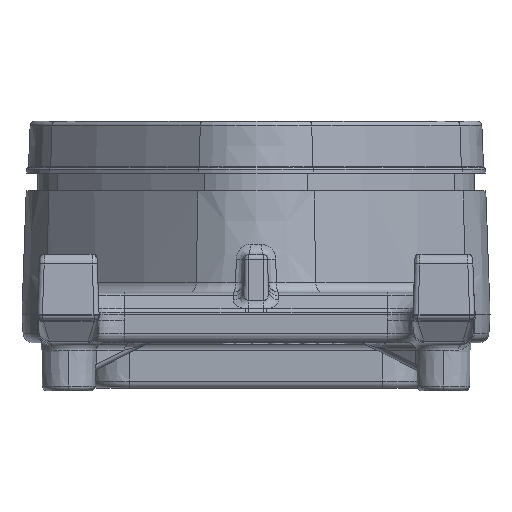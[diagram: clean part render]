
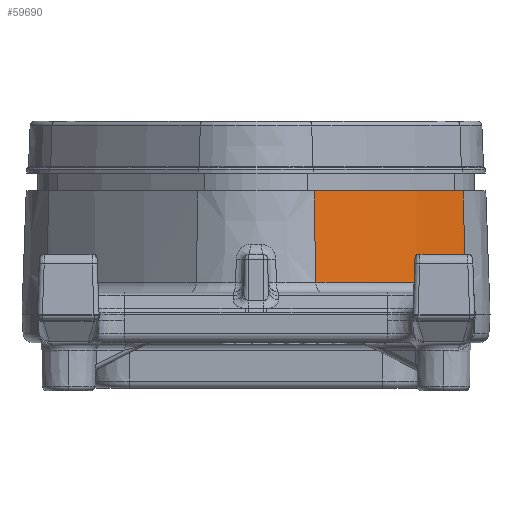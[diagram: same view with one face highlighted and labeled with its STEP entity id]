
A CAD part, left-side view. The second image highlights one B-rep face of the part: STEP entity #59690.
In plain terms, the highlighted conical face has half-angle 2 degrees and reference radius 150 mm.
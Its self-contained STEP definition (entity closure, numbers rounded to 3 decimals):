
#26316=AXIS2_PLACEMENT_3D('Circle Axis2P3D',#26314,#26315,$) ;
#28661=AXIS2_PLACEMENT_3D('Circle Axis2P3D',#28659,#28660,$) ;
#41360=AXIS2_PLACEMENT_3D('Cone Axis2P3D',#41357,#41358,#41359) ;
#26197=CARTESIAN_POINT('Vertex',(-46.904,-40.911,4.)) ;
#26200=CARTESIAN_POINT('Line Origine',(-47.186,-41.256,-8.75)) ;
#26204=CARTESIAN_POINT('Vertex',(-47.309,-41.405,-14.268)) ;
#26311=CARTESIAN_POINT('Vertex',(-74.322,-11.458,4.)) ;
#26314=CARTESIAN_POINT('Axis2P3D Location',(48.084,75.,4.)) ;
#27942=CARTESIAN_POINT('Vertex',(-74.837,-11.822,-14.07)) ;
#28605=CARTESIAN_POINT('Control Point',(-47.309,-41.405,-14.268)) ;
#28606=CARTESIAN_POINT('Control Point',(-47.373,-41.351,-14.248)) ;
#28607=CARTESIAN_POINT('Control Point',(-47.437,-41.297,-14.228)) ;
#28608=CARTESIAN_POINT('Control Point',(-47.502,-41.243,-14.21)) ;
#28609=CARTESIAN_POINT('Control Point',(-47.754,-41.033,-14.146)) ;
#28610=CARTESIAN_POINT('Control Point',(-48.008,-40.821,-14.102)) ;
#28611=CARTESIAN_POINT('Control Point',(-48.197,-40.662,-14.081)) ;
#28612=CARTESIAN_POINT('Control Point',(-48.387,-40.504,-14.07)) ;
#28613=CARTESIAN_POINT('Control Point',(-48.576,-40.345,-14.07)) ;
#28614=CARTESIAN_POINT('Vertex',(-48.576,-40.345,-14.07)) ;
#28659=CARTESIAN_POINT('Axis2P3D Location',(48.084,75.,-14.07)) ;
#41357=CARTESIAN_POINT('Axis2P3D Location',(48.084,75.,0.)) ;
#59678=CARTESIAN_POINT('Line Origine',(-74.686,-11.715,-8.75)) ;
#26201=DIRECTION('Vector Direction',(-0.022,-0.027,-0.999)) ;
#26315=DIRECTION('Axis2P3D Direction',(0.,0.,1.)) ;
#28660=DIRECTION('Axis2P3D Direction',(0.,0.,1.)) ;
#41358=DIRECTION('Axis2P3D Direction',(-0.,-0.,-1.)) ;
#41359=DIRECTION('Axis2P3D XDirection',(-0.817,-0.577,0.)) ;
#59679=DIRECTION('Vector Direction',(-0.029,-0.02,-0.999)) ;
#26202=VECTOR('Line Direction',#26201,1.) ;
#59680=VECTOR('Line Direction',#59679,1.) ;
#59684=ORIENTED_EDGE('',*,*,#28663,.F.) ;
#59685=ORIENTED_EDGE('',*,*,#28616,.F.) ;
#59686=ORIENTED_EDGE('',*,*,#26206,.T.) ;
#59687=ORIENTED_EDGE('',*,*,#26318,.F.) ;
#59688=ORIENTED_EDGE('',*,*,#59682,.F.) ;
#59690=ADVANCED_FACE('Hold frame . Inve.Wand MET - INVEOR BG-A.1\\Halterahmen',(#59689),#41361,.T.) ;
#28604=B_SPLINE_CURVE_WITH_KNOTS('',5,(#28605,#28606,#28607,#28608,#28609,#28610,#28611,#28612,#28613),.UNSPECIFIED.,.F.,.U.,(6,3,6),(11.384,11.932,13.517),.UNSPECIFIED.) ;
#26317=CIRCLE('generated circle',#26316,149.86) ;
#28662=CIRCLE('generated circle',#28661,150.491) ;
#41361=CONICAL_SURFACE('Cone',#41360,150.,0.035) ;
#26206=EDGE_CURVE('',#26205,#26198,#26203,.F.) ;
#26318=EDGE_CURVE('',#26312,#26198,#26317,.T.) ;
#28616=EDGE_CURVE('',#26205,#28615,#28604,.T.) ;
#28663=EDGE_CURVE('',#28615,#27943,#28662,.F.) ;
#59682=EDGE_CURVE('',#27943,#26312,#59681,.F.) ;
#59683=EDGE_LOOP('',(#59684,#59685,#59686,#59687,#59688)) ;
#59689=FACE_OUTER_BOUND('',#59683,.T.) ;
#26203=LINE('Line',#26200,#26202) ;
#59681=LINE('Line',#59678,#59680) ;
#26198=VERTEX_POINT('',#26197) ;
#26205=VERTEX_POINT('',#26204) ;
#26312=VERTEX_POINT('',#26311) ;
#27943=VERTEX_POINT('',#27942) ;
#28615=VERTEX_POINT('',#28614) ;
